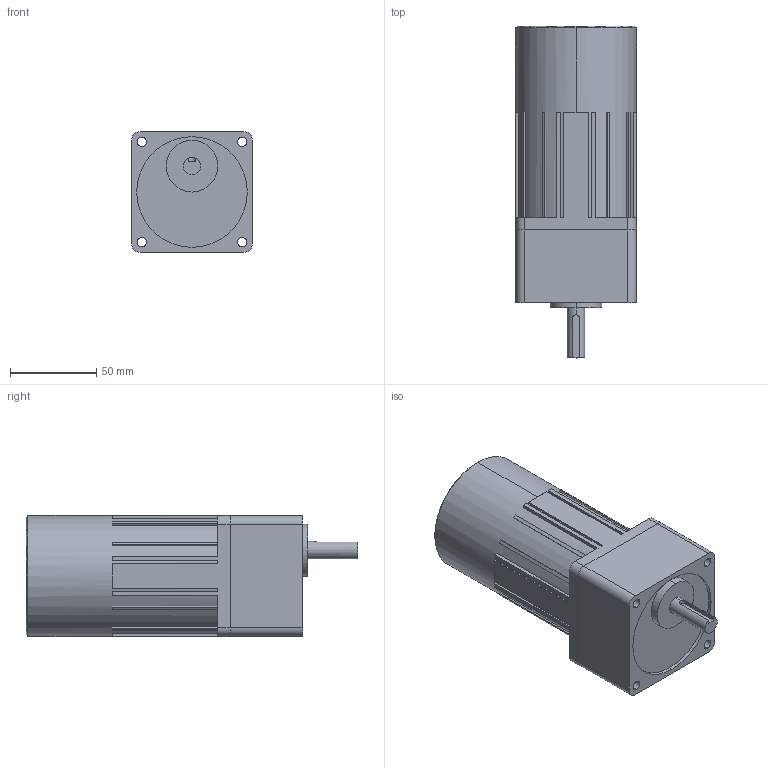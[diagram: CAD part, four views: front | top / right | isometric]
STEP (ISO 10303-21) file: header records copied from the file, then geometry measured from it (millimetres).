
FILE_DESCRIPTION (( 'STEP AP203' ), '1' );
FILE_NAME ('L7HK025B + L7R15PBLE.STEP', '2018-09-20T05:40:47', ( '' ), ( '' ), 'SwSTEP 2.0', 'SolidWorks 2017', '' );
FILE_SCHEMA (( 'CONFIG_CONTROL_DESIGN' ));
Length unit declared in the file: millimetre
Products named in the file (1): L7HK025B + L7R15PBLE
Bounding box: 70 x 192 x 70 mm (x, y, z)
Volume: 664455.7 mm3; surface area: 64848.1 mm2
Topology: 2 solids, 2 shells, 137 faces, 382 edges, 252 vertices
Faces by surface type: plane 102, cylinder 33, cone 2
Entity records: 4534 total; most frequent: CARTESIAN_POINT 802, DIRECTION 765, ORIENTED_EDGE 764, EDGE_CURVE 382, LINE 271, VECTOR 271, VERTEX_POINT 252, AXIS2_PLACEMENT_3D 247
